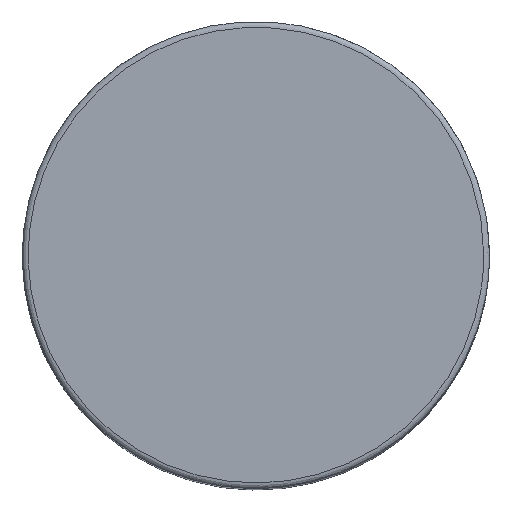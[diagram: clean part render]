
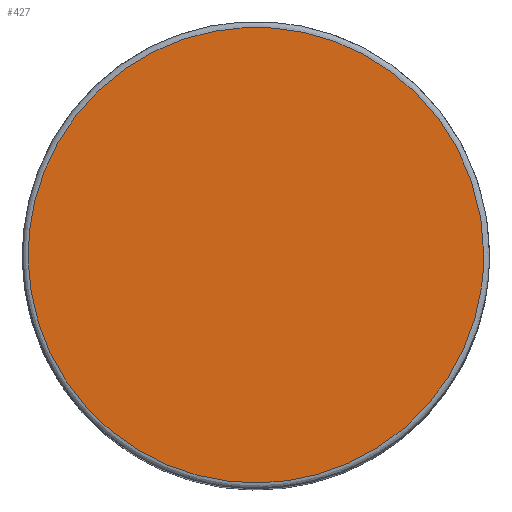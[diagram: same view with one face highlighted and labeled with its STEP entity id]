
A CAD part, top view. The second image highlights one B-rep face of the part: STEP entity #427.
In plain terms, the highlighted free-form (B-spline) face has degree [1, 1] with [2, 2] control points.
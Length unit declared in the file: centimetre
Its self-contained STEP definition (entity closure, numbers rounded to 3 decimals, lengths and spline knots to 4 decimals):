
#366 = CARTESIAN_POINT ('', (3.9, 0., 12.5));
#367 = VERTEX_POINT ('', #366);
#376 = CARTESIAN_POINT ('', (3.9, 0., 12.5));
#377 = CARTESIAN_POINT ('', (3.9, 3.9, 12.5));
#378 = CARTESIAN_POINT ('', (0., 3.9, 12.5));
#379 = CARTESIAN_POINT ('', (-3.9, 3.9, 12.5));
#380 = CARTESIAN_POINT ('', (-3.9, 0., 12.5));
#381 = CARTESIAN_POINT ('', (-3.9, -3.9, 12.5));
#382 = CARTESIAN_POINT ('', (0., -3.9, 12.5));
#383 = CARTESIAN_POINT ('', (3.9, -3.9, 12.5));
#384 = CARTESIAN_POINT ('', (3.9, 0., 12.5));
#385 = (
   BOUNDED_CURVE ()
   B_SPLINE_CURVE (2, (#376, #377, #378, #379, #380, #381, #382, #383, #384), .UNSPECIFIED., .T., .U.)
   B_SPLINE_CURVE_WITH_KNOTS ((3, 2, 2, 2, 3), (0., 0.25, 0.5, 0.75, 1.), .UNSPECIFIED.)
   CURVE ()
   GEOMETRIC_REPRESENTATION_ITEM ()
   RATIONAL_B_SPLINE_CURVE ((1., 0.707, 1., 0.707, 1., 0.707, 1., 0.707, 1.))
   REPRESENTATION_ITEM ('')
);
#386 = EDGE_CURVE ('', #367, #367, #385, .T.);
#419 = ORIENTED_EDGE ('', *, *, #386, .T.);
#420 = EDGE_LOOP ('', (#419));
#421 = FACE_OUTER_BOUND ('', #420, .T.);
#422 = CARTESIAN_POINT ('', (11.7359, -11.3797, 12.5));
#423 = CARTESIAN_POINT ('', (-12.0229, -11.3797, 12.5));
#424 = CARTESIAN_POINT ('', (11.7359, 12.3791, 12.5));
#425 = CARTESIAN_POINT ('', (-12.0229, 12.3791, 12.5));
#426 = B_SPLINE_SURFACE_WITH_KNOTS ('', 1, 1, ((#422, #423), (#424, #425)), .UNSPECIFIED., .F., .F., .U., (2, 2), (2, 2), (0., 1.), (0., 1.), .UNSPECIFIED.);
#427 = ADVANCED_FACE ('', (#421), #426, .T.);
